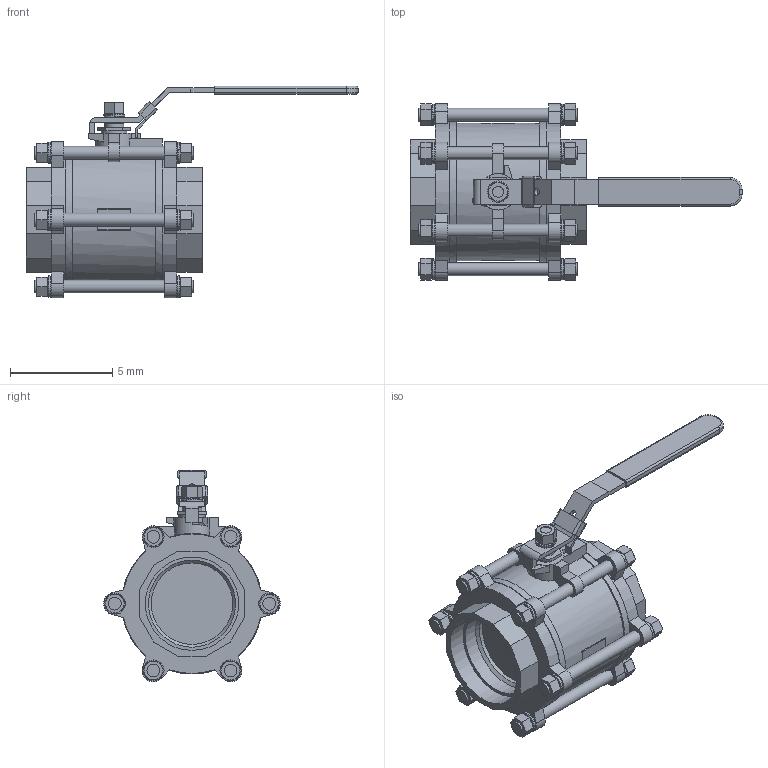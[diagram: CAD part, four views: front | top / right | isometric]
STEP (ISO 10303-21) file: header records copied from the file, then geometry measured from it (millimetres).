
FILE_DESCRIPTION(('Open CASCADE Model'),'2;1');
FILE_NAME('Open CASCADE Shape Model','2022-09-22T15:00:45',('Author'),( 'Open CASCADE'),'Open CASCADE STEP processor 7.3','Open CASCADE 7.3' ,'Unknown');
FILE_SCHEMA(('AUTOMOTIVE_DESIGN { 1 0 10303 214 1 1 1 1 }'));
Length unit declared in the file: millimetre
Products named in the file (84): Open CASCADE STEP translator 7.3 1; Open CASCADE STEP translator 7.3 1.1; Open CASCADE STEP translator 7.3 1.2; Open CASCADE STEP translator 7.3 1.3; Open CASCADE STEP translator 7.3 1.4; Open CASCADE STEP translator 7.3 1.5; Open CASCADE STEP translator 7.3 1.5.1; Open CASCADE STEP translator 7.3 1.5.2; Open CASCADE STEP translator 7.3 1.5.3; Open CASCADE STEP translator 7.3 1.5.4; Open CASCADE STEP translator 7.3 1.5.5; Open CASCADE STEP translator 7.3 1.5.6; Open CASCADE STEP translator 7.3 1.5.7; Open CASCADE STEP translator 7.3 1.6; Open CASCADE STEP translator 7.3 1.7; Open CASCADE STEP translator 7.3 1.8; Open CASCADE STEP translator 7.3 1.9; Open CASCADE STEP translator 7.3 1.10; Open CASCADE STEP translator 7.3 1.11; Open CASCADE STEP translator 7.3 1.12; Open CASCADE STEP translator 7.3 1.13; Open CASCADE STEP translator 7.3 1.14; Open CASCADE STEP translator 7.3 1.15; Open CASCADE STEP translator 7.3 1.16; Open CASCADE STEP translator 7.3 1.17; Open CASCADE STEP translator 7.3 1.18; Open CASCADE STEP translator 7.3 1.19; Open CASCADE STEP translator 7.3 1.20; Open CASCADE STEP translator 7.3 1.21; Open CASCADE STEP translator 7.3 1.22; Open CASCADE STEP translator 7.3 1.23; Open CASCADE STEP translator 7.3 1.24; Open CASCADE STEP translator 7.3 1.25; Open CASCADE STEP translator 7.3 1.26; Open CASCADE STEP translator 7.3 1.27; Open CASCADE STEP translator 7.3 1.28; Open CASCADE STEP translator 7.3 1.29; Open CASCADE STEP translator 7.3 1.30; Open CASCADE STEP translator 7.3 1.31; Open CASCADE STEP translator 7.3 1.32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
Assembly tree (83 placements, depth 3):
  Open CASCADE STEP translator 7.3 1
    Open CASCADE STEP translator 7.3 1.1
    Open CASCADE STEP translator 7.3 1.2
    Open CASCADE STEP translator 7.3 1.3
    Open CASCADE STEP translator 7.3 1.4
    Open CASCADE STEP translator 7.3 1.5
      Open CASCADE STEP translator 7.3 1.5.1
      Open CASCADE STEP translator 7.3 1.5.2
      Open CASCADE STEP translator 7.3 1.5.3
      Open CASCADE STEP translator 7.3 1.5.4
      Open CASCADE STEP translator 7.3 1.5.5
      Open CASCADE STEP translator 7.3 1.5.6
      Open CASCADE STEP translator 7.3 1.5.7
    Open CASCADE STEP translator 7.3 1.6
    Open CASCADE STEP translator 7.3 1.7
    Open CASCADE STEP translator 7.3 1.8
    Open CASCADE STEP translator 7.3 1.9
    Open CASCADE STEP translator 7.3 1.10
    Open CASCADE STEP translator 7.3 1.11
    Open CASCADE STEP translator 7.3 1.12
    Open CASCADE STEP translator 7.3 1.13
    Open CASCADE STEP translator 7.3 1.14
    Open CASCADE STEP translator 7.3 1.15
    Open CASCADE STEP translator 7.3 1.16
    Open CASCADE STEP translator 7.3 1.17
    Open CASCADE STEP translator 7.3 1.18
    Open CASCADE STEP translator 7.3 1.19
    Open CASCADE STEP translator 7.3 1.20
    Open CASCADE STEP translator 7.3 1.21
    Open CASCADE STEP translator 7.3 1.22
    Open CASCADE STEP translator 7.3 1.23
    Open CASCADE STEP translator 7.3 1.24
    Open CASCADE STEP translator 7.3 1.25
    Open CASCADE STEP translator 7.3 1.26
    Open CASCADE STEP translator 7.3 1.27
    Open CASCADE STEP translator 7.3 1.28
    Open CASCADE STEP translator 7.3 1.29
    Open CASCADE STEP translator 7.3 1.30
    Open CASCADE STEP translator 7.3 1.31
    Open CASCADE STEP translator 7.3 1.32
    Open CASCADE STEP translator 7.3 1.33
    Open CASCADE STEP translator 7.3 1.34
    Open CASCADE STEP translator 7.3 1.35
    Open CASCADE STEP translator 7.3 1.36
    Open CASCADE STEP translator 7.3 1.37
    Open CASCADE STEP translator 7.3 1.38
    Open CASCADE STEP translator 7.3 1.39
    Open CASCADE STEP translator 7.3 1.40
    Open CASCADE STEP translator 7.3 1.41
    Open CASCADE STEP translator 7.3 1.42
    Open CASCADE STEP translator 7.3 1.43
    Open CASCADE STEP translator 7.3 1.44
    Open CASCADE STEP translator 7.3 1.45
    Open CASCADE STEP translator 7.3 1.46
    Open CASCADE STEP translator 7.3 1.47
    Open CASCADE STEP translator 7.3 1.48
    Open CASCADE STEP translator 7.3 1.49
    Open CASCADE STEP translator 7.3 1.50
    Open CASCADE STEP translator 7.3 1.51
    Open CASCADE STEP translator 7.3 1.52
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Bounding box: 16.21 x 8.64 x 10.33 mm (x, y, z)
Volume: 242.7 mm3; surface area: 680.1 mm2
Topology: 38 solids, 82 shells, 681 faces, 1764 edges, 1184 vertices
Faces by surface type: plane 359, cone 132, torus 108, cylinder 82
Full cylindrical faces by diameter (mm): 0.35 x1, 0.54 x13, 0.625 x6, 0.665 x12, 0.677 x2, 0.945 x1, 1.25 x1, 1.775 x1, 3.975 x2, 4.25 x2, 4.555 x2, 6.705 x1, 6.81 x2, 6.865 x2
Entity records: 48130 total; most frequent: CARTESIAN_POINT 12968, DIRECTION 6572, LINE 3447, VECTOR 3447, ORIENTED_EDGE 3314, PCURVE 3312, DEFINITIONAL_REPRESENTATION 3312, EDGE_CURVE 1764
